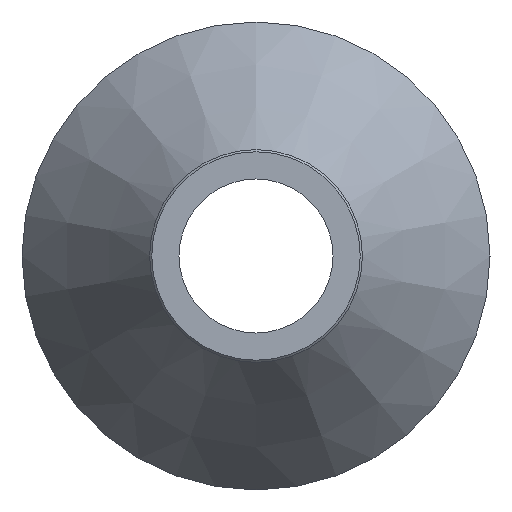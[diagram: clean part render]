
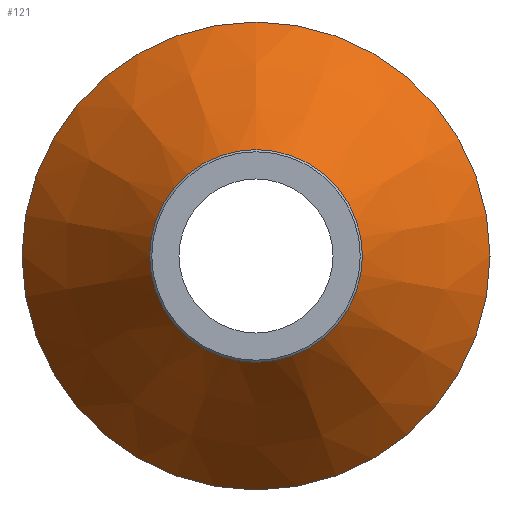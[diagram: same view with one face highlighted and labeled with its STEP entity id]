
A CAD part, left-side view. The second image highlights one B-rep face of the part: STEP entity #121.
In plain terms, the highlighted conical face has half-angle 35.538 degrees and reference radius 55 mm.
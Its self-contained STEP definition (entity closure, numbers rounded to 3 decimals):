
#22=CONICAL_SURFACE('',#146,55.,0.62);
#28=ORIENTED_EDGE('',*,*,#48,.F.);
#29=ORIENTED_EDGE('',*,*,#47,.T.);
#47=EDGE_CURVE('',#57,#57,#67,.T.);
#48=EDGE_CURVE('',#58,#58,#68,.T.);
#57=VERTEX_POINT('',#210);
#58=VERTEX_POINT('',#213);
#67=CIRCLE('',#145,55.);
#68=CIRCLE('',#147,25.);
#78=EDGE_LOOP('',(#28));
#79=EDGE_LOOP('',(#29));
#98=FACE_BOUND('',#78,.T.);
#99=FACE_BOUND('',#79,.T.);
#121=ADVANCED_FACE('',(#98,#99),#22,.T.);
#145=AXIS2_PLACEMENT_3D('',#209,#169,#170);
#146=AXIS2_PLACEMENT_3D('',#211,#171,#172);
#147=AXIS2_PLACEMENT_3D('',#212,#173,#174);
#169=DIRECTION('',(-1.,0.,0.));
#170=DIRECTION('',(0.,0.,1.));
#171=DIRECTION('',(1.,0.,0.));
#172=DIRECTION('',(0.,0.,-1.));
#173=DIRECTION('',(-1.,0.,0.));
#174=DIRECTION('',(0.,0.,1.));
#209=CARTESIAN_POINT('',(21.,0.,0.));
#210=CARTESIAN_POINT('',(21.,0.,55.));
#211=CARTESIAN_POINT('',(21.,0.,0.));
#212=CARTESIAN_POINT('',(-21.,0.,0.));
#213=CARTESIAN_POINT('',(-21.,0.,25.));
